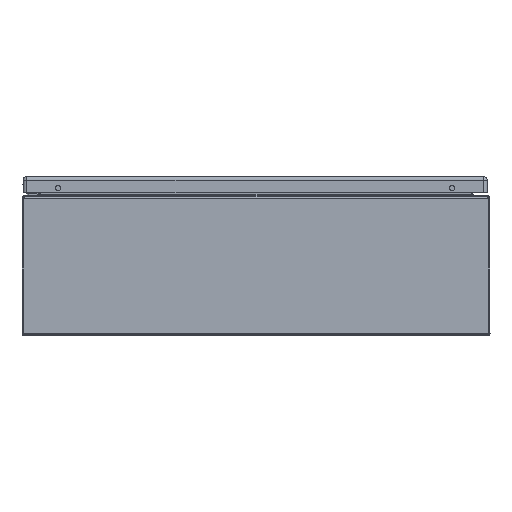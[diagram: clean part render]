
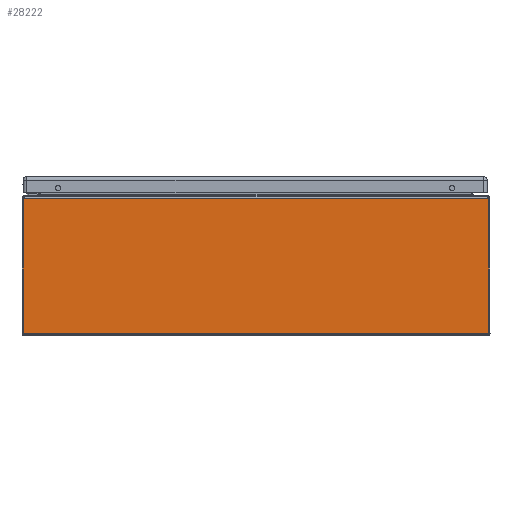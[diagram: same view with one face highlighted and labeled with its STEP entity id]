
A CAD part, front view. The second image highlights one B-rep face of the part: STEP entity #28222.
In plain terms, the highlighted planar face has unit normal (0, -1, 0).
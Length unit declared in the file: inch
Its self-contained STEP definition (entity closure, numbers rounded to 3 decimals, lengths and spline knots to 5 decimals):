
#3582 = ORIENTED_EDGE ( 'NONE', *, *, #17330, .T. ) ;
#3683 = ORIENTED_EDGE ( 'NONE', *, *, #17316, .T. ) ;
#3709 = ORIENTED_EDGE ( 'NONE', *, *, #17273, .T. ) ;
#3783 = ORIENTED_EDGE ( 'NONE', *, *, #17326, .F. ) ;
#8050 = DIRECTION ( 'NONE',  ( 0., 0., -1. ) ) ;
#8054 = DIRECTION ( 'NONE',  ( 0., -1., 0. ) ) ;
#8060 = PLANE ( 'NONE',  #18155 ) ;
#8067 = CARTESIAN_POINT ( 'NONE',  ( -160., -15., 5.855 ) ) ;
#14416 = CARTESIAN_POINT ( 'NONE',  ( -9.93793, -15., 5.855 ) ) ;
#14432 = CARTESIAN_POINT ( 'NONE',  ( -9.93793, -15., 0.106 ) ) ;
#14530 = CARTESIAN_POINT ( 'NONE',  ( 9.93793, -15., 0.106 ) ) ;
#14578 = CARTESIAN_POINT ( 'NONE',  ( 9.93793, -15., 5.855 ) ) ;
#14726 = DIRECTION ( 'NONE',  ( 1., 0., 0. ) ) ;
#14727 = CARTESIAN_POINT ( 'NONE',  ( -160., -15., 0.106 ) ) ;
#14734 = DIRECTION ( 'NONE',  ( 1., 0., 0. ) ) ;
#14735 = CARTESIAN_POINT ( 'NONE',  ( -160., -15., 5.855 ) ) ;
#14760 = DIRECTION ( 'NONE',  ( 0., 0., 1. ) ) ;
#14761 = CARTESIAN_POINT ( 'NONE',  ( 9.93793, -15., 5.855 ) ) ;
#14895 = DIRECTION ( 'NONE',  ( 0., 0., -1. ) ) ;
#14901 = CARTESIAN_POINT ( 'NONE',  ( -9.93793, -15., 5.855 ) ) ;
#17273 = EDGE_CURVE ( 'NONE', #22761, #22746, #30536, .T. ) ;
#17316 = EDGE_CURVE ( 'NONE', #22660, #22614, #30591, .T. ) ;
#17326 = EDGE_CURVE ( 'NONE', #22761, #22614, #30618, .T. ) ;
#17330 = EDGE_CURVE ( 'NONE', #22746, #22660, #30626, .T. ) ;
#18155 = AXIS2_PLACEMENT_3D ( 'NONE', #8067, #8054, #8050 ) ;
#22614 = VERTEX_POINT ( 'NONE', #14578 ) ;
#22660 = VERTEX_POINT ( 'NONE', #14530 ) ;
#22746 = VERTEX_POINT ( 'NONE', #14432 ) ;
#22761 = VERTEX_POINT ( 'NONE', #14416 ) ;
#28222 = ADVANCED_FACE ( 'NONE', ( #31601 ), #8060, .T. ) ;
#30530 = VECTOR ( 'NONE', #14895, 39.37008 ) ;
#30536 = LINE ( 'NONE', #14901, #30530 ) ;
#30591 = LINE ( 'NONE', #14761, #30601 ) ;
#30601 = VECTOR ( 'NONE', #14760, 39.37008 ) ;
#30618 = LINE ( 'NONE', #14735, #30619 ) ;
#30619 = VECTOR ( 'NONE', #14734, 39.37008 ) ;
#30626 = LINE ( 'NONE', #14727, #30627 ) ;
#30627 = VECTOR ( 'NONE', #14726, 39.37008 ) ;
#31601 = FACE_OUTER_BOUND ( 'NONE', #32662, .T. ) ;
#32662 = EDGE_LOOP ( 'NONE', ( #3683, #3783, #3709, #3582 ) ) ;
